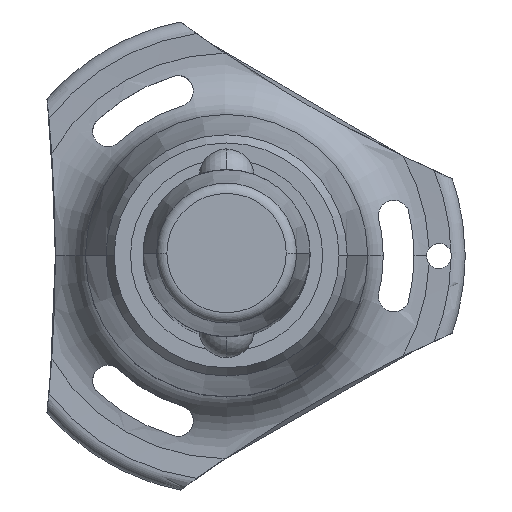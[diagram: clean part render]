
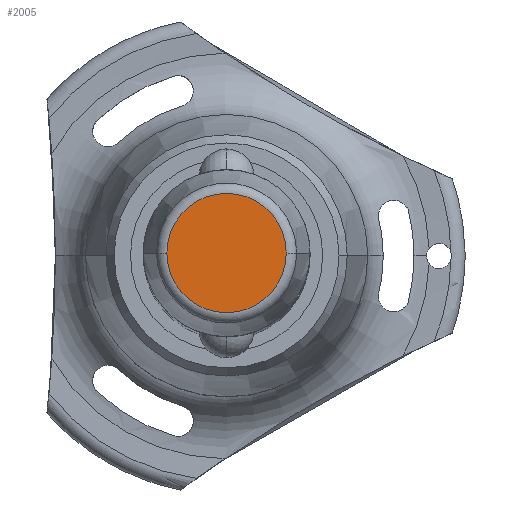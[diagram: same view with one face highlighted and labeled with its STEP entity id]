
A CAD part, top view. The second image highlights one B-rep face of the part: STEP entity #2005.
In plain terms, the highlighted planar face has unit normal (0, 0, 1).
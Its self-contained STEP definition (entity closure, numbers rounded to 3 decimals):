
#201 = AXIS2_PLACEMENT_3D ( 'NONE', #859, #1795, #2015 ) ;
#567 = VERTEX_POINT ( 'NONE', #1214 ) ;
#569 = CIRCLE ( 'NONE', #201, 7.144 ) ;
#580 = ORIENTED_EDGE ( 'NONE', *, *, #2742, .T. ) ;
#697 = EDGE_CURVE ( 'NONE', #1964, #567, #569, .T. ) ;
#853 = DIRECTION ( 'NONE',  ( 1., 0., 0. ) ) ;
#859 = CARTESIAN_POINT ( 'NONE',  ( 0., 0., 20.5 ) ) ;
#1044 = AXIS2_PLACEMENT_3D ( 'NONE', #1199, #1871, #853 ) ;
#1199 = CARTESIAN_POINT ( 'NONE',  ( 0., 0., 20.5 ) ) ;
#1214 = CARTESIAN_POINT ( 'NONE',  ( 7.144, 0., 20.5 ) ) ;
#1590 = CARTESIAN_POINT ( 'NONE',  ( -7.144, 0., 20.5 ) ) ;
#1672 = PLANE ( 'NONE',  #2642 ) ;
#1795 = DIRECTION ( 'NONE',  ( 0., 0., 1. ) ) ;
#1871 = DIRECTION ( 'NONE',  ( 0., 0., 1. ) ) ;
#1964 = VERTEX_POINT ( 'NONE', #1590 ) ;
#2005 = ADVANCED_FACE ( 'NONE', ( #2770 ), #1672, .T. ) ;
#2015 = DIRECTION ( 'NONE',  ( 1., 0., 0. ) ) ;
#2216 = EDGE_LOOP ( 'NONE', ( #580, #2820 ) ) ;
#2306 = CARTESIAN_POINT ( 'NONE',  ( 0., 0., 20.5 ) ) ;
#2530 = DIRECTION ( 'NONE',  ( 0., 0., 1. ) ) ;
#2642 = AXIS2_PLACEMENT_3D ( 'NONE', #2306, #2530, #2783 ) ;
#2742 = EDGE_CURVE ( 'NONE', #567, #1964, #2893, .T. ) ;
#2770 = FACE_OUTER_BOUND ( 'NONE', #2216, .T. ) ;
#2783 = DIRECTION ( 'NONE',  ( 1., 0., 0. ) ) ;
#2820 = ORIENTED_EDGE ( 'NONE', *, *, #697, .T. ) ;
#2893 = CIRCLE ( 'NONE', #1044, 7.144 ) ;
